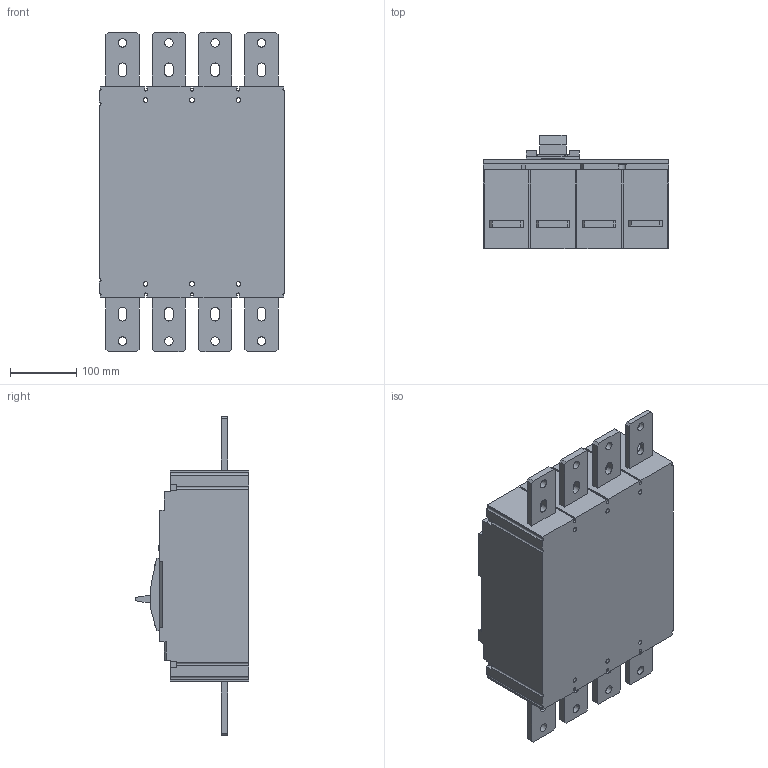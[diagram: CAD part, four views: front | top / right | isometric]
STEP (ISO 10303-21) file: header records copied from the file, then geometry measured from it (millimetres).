
FILE_DESCRIPTION(/* description */ ('','CAx-IF Rec.Pracs.---Representation and Presentation of Product Manufacturing Information (PMI)---3.8---2014-02-18'),/* implementation_level */ '2;1');
FILE_NAME(/* name */ 'E:\3D model\46-susol-mccb-800af-iec-4pr.stp',/* time_stamp */ '2017-11-09T14:54:08+03:00',/* author */ ('dobrin'),/* organization */ (''),/* preprocessor_version */ 'ST-DEVELOPER v16.13',/* originating_system */ 'Autodesk Inventor 2018',/* authorisation */ '');
FILE_SCHEMA (('AP242_MANAGED_MODEL_BASED_3D_ENGINEERING_MIM_LF { 1 0 10303 442 1 1 4 }'));
Length unit declared in the file: metre
Products named in the file (1): 46-susol-mccb-800af-iec-4pr
Bounding box: 280 x 172 x 483 mm (x, y, z)
Volume: 11924319.3 mm3; surface area: 471419.1 mm2
Topology: 1 solids, 1 shells, 868 faces, 2297 edges, 1504 vertices
Faces by surface type: plane 714, cylinder 109, torus 23, cone 10, sphere 8, bspline 4
Full cylindrical faces by diameter (mm): 3 x3, 7 x8, 8 x6, 13 x8, 22 x8, 26 x8
Entity records: 26947 total; most frequent: CARTESIAN_POINT 5224, ORIENTED_EDGE 4472, DIRECTION 4269, EDGE_CURVE 2236, LINE 1943, VECTOR 1943, VERTEX_POINT 1500, AXIS2_PLACEMENT_3D 1167
